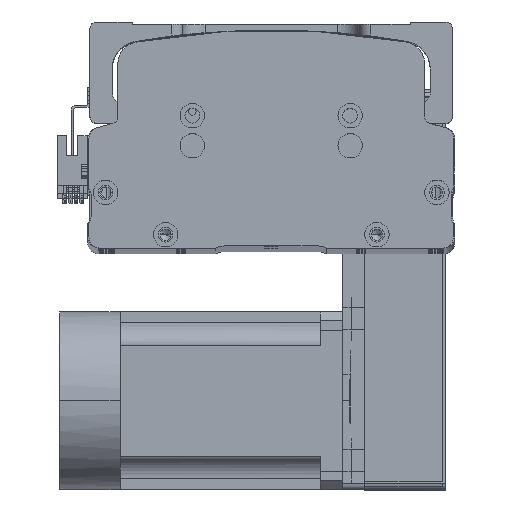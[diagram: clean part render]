
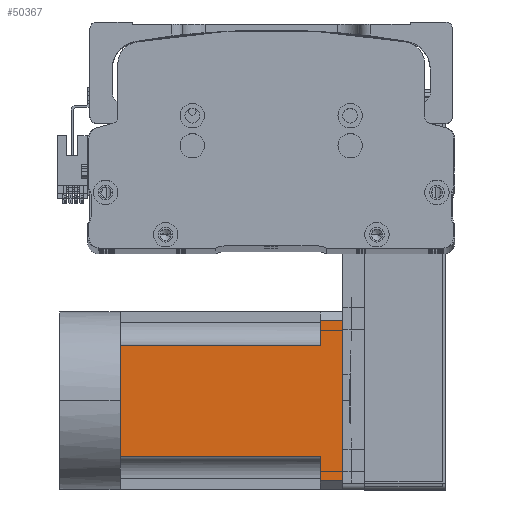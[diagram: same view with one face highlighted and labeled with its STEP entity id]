
A CAD part, top view. The second image highlights one B-rep face of the part: STEP entity #50367.
In plain terms, the highlighted planar face has unit normal (0, 0, 1) as drawn and (0, 0, -1) by its records, which use the part's own axes.
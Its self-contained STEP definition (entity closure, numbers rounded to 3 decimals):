
#162 = LINE ( 'NONE', #40968, #53552 ) ;
#952 = LINE ( 'NONE', #38172, #40560 ) ;
#1301 = EDGE_CURVE ( 'NONE', #35270, #62694, #11732, .T. ) ;
#2259 = VECTOR ( 'NONE', #20825, 1000. ) ;
#2552 = CARTESIAN_POINT ( 'NONE',  ( -40., -27., -40. ) ) ;
#5653 = CARTESIAN_POINT ( 'NONE',  ( -40., 90., -40. ) ) ;
#6765 = EDGE_CURVE ( 'NONE', #49912, #65671, #33240, .T. ) ;
#8099 = EDGE_CURVE ( 'NONE', #26139, #16429, #22464, .T. ) ;
#8717 = EDGE_CURVE ( 'NONE', #62694, #14821, #45804, .T. ) ;
#10557 = ORIENTED_EDGE ( 'NONE', *, *, #8717, .T. ) ;
#10587 = LINE ( 'NONE', #5653, #64056 ) ;
#11732 = LINE ( 'NONE', #54683, #25538 ) ;
#12161 = EDGE_CURVE ( 'NONE', #30578, #49912, #952, .T. ) ;
#14821 = VERTEX_POINT ( 'NONE', #65488 ) ;
#15627 = CARTESIAN_POINT ( 'NONE',  ( 36., -27., -40. ) ) ;
#16429 = VERTEX_POINT ( 'NONE', #32695 ) ;
#17023 = AXIS2_PLACEMENT_3D ( 'NONE', #2552, #54323, #23328 ) ;
#18162 = PLANE ( 'NONE',  #17023 ) ;
#18509 = DIRECTION ( 'NONE',  ( 0., 1., 0. ) ) ;
#19759 = EDGE_CURVE ( 'NONE', #14821, #16429, #33901, .T. ) ;
#20825 = DIRECTION ( 'NONE',  ( 0., -1., 0. ) ) ;
#21514 = DIRECTION ( 'NONE',  ( -1., 0., 0. ) ) ;
#22464 = LINE ( 'NONE', #33897, #62108 ) ;
#23328 = DIRECTION ( 'NONE',  ( -1., 0., 0. ) ) ;
#23939 = ORIENTED_EDGE ( 'NONE', *, *, #64237, .T. ) ;
#25538 = VECTOR ( 'NONE', #18509, 1000. ) ;
#26139 = VERTEX_POINT ( 'NONE', #49334 ) ;
#26185 = VERTEX_POINT ( 'NONE', #64958 ) ;
#28177 = EDGE_LOOP ( 'NONE', ( #65502, #23939, #40810, #41367, #66642, #56996, #61457, #10557, #40599 ) ) ;
#29153 = DIRECTION ( 'NONE',  ( -1., 0., 0. ) ) ;
#30578 = VERTEX_POINT ( 'NONE', #41142 ) ;
#31263 = CARTESIAN_POINT ( 'NONE',  ( -40., 90., -40. ) ) ;
#32107 = VECTOR ( 'NONE', #21514, 1000. ) ;
#32695 = CARTESIAN_POINT ( 'NONE',  ( -36., 100., -40. ) ) ;
#33178 = EDGE_CURVE ( 'NONE', #65671, #35270, #162, .T. ) ;
#33240 = LINE ( 'NONE', #39301, #59131 ) ;
#33242 = EDGE_CURVE ( 'NONE', #26185, #30578, #10587, .T. ) ;
#33897 = CARTESIAN_POINT ( 'NONE',  ( -40., 100., -40. ) ) ;
#33901 = LINE ( 'NONE', #45218, #61386 ) ;
#34636 = DIRECTION ( 'NONE',  ( 0., 1., 0. ) ) ;
#35270 = VERTEX_POINT ( 'NONE', #38723 ) ;
#38172 = CARTESIAN_POINT ( 'NONE',  ( 25., -27., -40. ) ) ;
#38723 = CARTESIAN_POINT ( 'NONE',  ( -25., 0., -40. ) ) ;
#39301 = CARTESIAN_POINT ( 'NONE',  ( -40., 0., -40. ) ) ;
#40560 = VECTOR ( 'NONE', #48571, 1000. ) ;
#40599 = ORIENTED_EDGE ( 'NONE', *, *, #19759, .T. ) ;
#40810 = ORIENTED_EDGE ( 'NONE', *, *, #33242, .T. ) ;
#40968 = CARTESIAN_POINT ( 'NONE',  ( -40., 0., -40. ) ) ;
#41142 = CARTESIAN_POINT ( 'NONE',  ( 25., 90., -40. ) ) ;
#41367 = ORIENTED_EDGE ( 'NONE', *, *, #12161, .T. ) ;
#41858 = DIRECTION ( 'NONE',  ( -1., 0., 0. ) ) ;
#44485 = DIRECTION ( 'NONE',  ( -1., 0., 0. ) ) ;
#45218 = CARTESIAN_POINT ( 'NONE',  ( -36., -27., -40. ) ) ;
#45804 = LINE ( 'NONE', #31263, #32107 ) ;
#48258 = FACE_OUTER_BOUND ( 'NONE', #28177, .T. ) ;
#48571 = DIRECTION ( 'NONE',  ( 0., -1., 0. ) ) ;
#49334 = CARTESIAN_POINT ( 'NONE',  ( 36., 100., -40. ) ) ;
#49912 = VERTEX_POINT ( 'NONE', #66253 ) ;
#50367 = ADVANCED_FACE ( 'NONE', ( #48258 ), #18162, .T. ) ;
#50911 = DIRECTION ( 'NONE',  ( -1., 0., 0. ) ) ;
#52863 = CARTESIAN_POINT ( 'NONE',  ( -25., 90., -40. ) ) ;
#53552 = VECTOR ( 'NONE', #50911, 1000. ) ;
#54323 = DIRECTION ( 'NONE',  ( 0., 0., -1. ) ) ;
#54569 = CARTESIAN_POINT ( 'NONE',  ( 0., 0., -40. ) ) ;
#54683 = CARTESIAN_POINT ( 'NONE',  ( -25., -27., -40. ) ) ;
#56996 = ORIENTED_EDGE ( 'NONE', *, *, #33178, .T. ) ;
#57272 = LINE ( 'NONE', #15627, #2259 ) ;
#59131 = VECTOR ( 'NONE', #29153, 1000. ) ;
#61386 = VECTOR ( 'NONE', #34636, 1000. ) ;
#61457 = ORIENTED_EDGE ( 'NONE', *, *, #1301, .T. ) ;
#62108 = VECTOR ( 'NONE', #44485, 1000. ) ;
#62694 = VERTEX_POINT ( 'NONE', #52863 ) ;
#64056 = VECTOR ( 'NONE', #41858, 1000. ) ;
#64237 = EDGE_CURVE ( 'NONE', #26139, #26185, #57272, .T. ) ;
#64958 = CARTESIAN_POINT ( 'NONE',  ( 36., 90., -40. ) ) ;
#65488 = CARTESIAN_POINT ( 'NONE',  ( -36., 90., -40. ) ) ;
#65502 = ORIENTED_EDGE ( 'NONE', *, *, #8099, .F. ) ;
#65671 = VERTEX_POINT ( 'NONE', #54569 ) ;
#66253 = CARTESIAN_POINT ( 'NONE',  ( 25., 0., -40. ) ) ;
#66642 = ORIENTED_EDGE ( 'NONE', *, *, #6765, .T. ) ;
